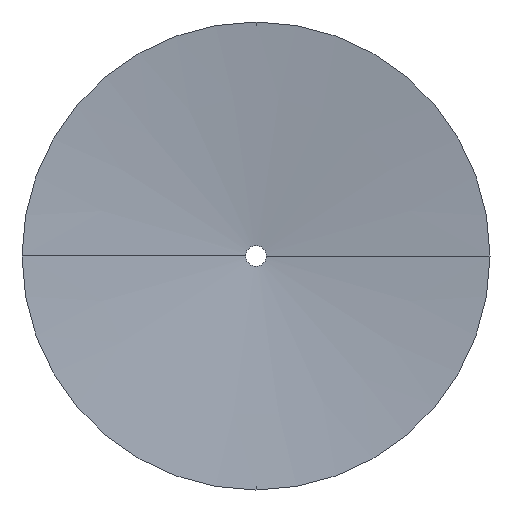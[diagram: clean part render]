
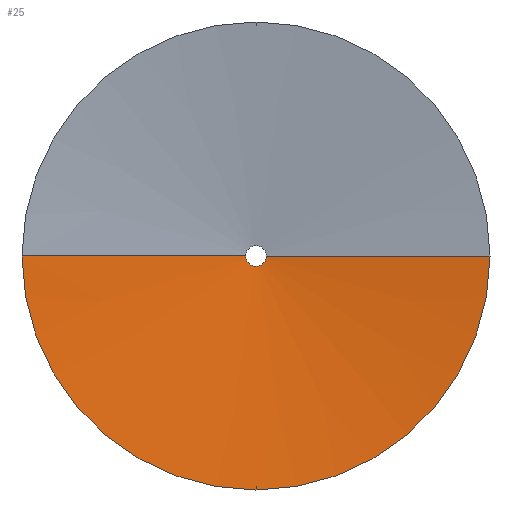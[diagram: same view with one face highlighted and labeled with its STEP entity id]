
A CAD part, left-side view. The second image highlights one B-rep face of the part: STEP entity #25.
In plain terms, the highlighted conical face has half-angle 83.367 degrees and reference radius 1 mm.
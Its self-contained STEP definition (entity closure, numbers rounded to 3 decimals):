
#13 = DIRECTION ( 'NONE',  ( 1., 0., 0. ) ) ;
#25 = ADVANCED_FACE ( 'NONE', ( #283 ), #506, .F. ) ;
#32 = VERTEX_POINT ( 'NONE', #431 ) ;
#48 = DIRECTION ( 'NONE',  ( 0., 0., 1. ) ) ;
#55 = AXIS2_PLACEMENT_3D ( 'NONE', #271, #659, #579 ) ;
#57 = CARTESIAN_POINT ( 'NONE',  ( 0., 0., 0. ) ) ;
#67 = EDGE_CURVE ( 'NONE', #500, #32, #588, .T. ) ;
#70 = LINE ( 'NONE', #662, #669 ) ;
#110 = EDGE_CURVE ( 'NONE', #310, #693, #488, .T. ) ;
#153 = DIRECTION ( 'NONE',  ( 0., 0., 1. ) ) ;
#167 = CIRCLE ( 'NONE', #183, 22.5 ) ;
#170 = DIRECTION ( 'NONE',  ( 1., 0., 0. ) ) ;
#183 = AXIS2_PLACEMENT_3D ( 'NONE', #57, #616, #346 ) ;
#185 = VERTEX_POINT ( 'NONE', #664 ) ;
#194 = CARTESIAN_POINT ( 'NONE',  ( 2.5, 0., 0. ) ) ;
#197 = ORIENTED_EDGE ( 'NONE', *, *, #110, .T. ) ;
#205 = CARTESIAN_POINT ( 'NONE',  ( 2.5, -1., 0. ) ) ;
#218 = VECTOR ( 'NONE', #496, 1000. ) ;
#247 = CARTESIAN_POINT ( 'NONE',  ( 2.5, 1., 0. ) ) ;
#271 = CARTESIAN_POINT ( 'NONE',  ( 0., 0., 0. ) ) ;
#283 = FACE_OUTER_BOUND ( 'NONE', #318, .T. ) ;
#286 = CARTESIAN_POINT ( 'NONE',  ( 2.5, 0., 0. ) ) ;
#298 = EDGE_CURVE ( 'NONE', #185, #32, #416, .T. ) ;
#310 = VERTEX_POINT ( 'NONE', #743 ) ;
#318 = EDGE_LOOP ( 'NONE', ( #197, #536, #554, #541, #642, #694 ) ) ;
#346 = DIRECTION ( 'NONE',  ( 0., 0., 1. ) ) ;
#375 = CARTESIAN_POINT ( 'NONE',  ( 2.5, -1., 0. ) ) ;
#397 = EDGE_CURVE ( 'NONE', #693, #683, #70, .T. ) ;
#416 = CIRCLE ( 'NONE', #55, 22.5 ) ;
#431 = CARTESIAN_POINT ( 'NONE',  ( 0., -22.5, 0. ) ) ;
#454 = DIRECTION ( 'NONE',  ( -1., 0., 0. ) ) ;
#458 = DIRECTION ( 'NONE',  ( 0., -1., 0. ) ) ;
#463 = AXIS2_PLACEMENT_3D ( 'NONE', #194, #170, #153 ) ;
#488 = CIRCLE ( 'NONE', #463, 1. ) ;
#496 = DIRECTION ( 'NONE',  ( -0.116, -0.993, 0. ) ) ;
#500 = VERTEX_POINT ( 'NONE', #205 ) ;
#506 = CONICAL_SURFACE ( 'NONE', #660, 1., 1.455 ) ;
#514 = DIRECTION ( 'NONE',  ( -0.116, 0.993, 0. ) ) ;
#515 = EDGE_CURVE ( 'NONE', #683, #185, #167, .T. ) ;
#529 = CARTESIAN_POINT ( 'NONE',  ( 2.5, 0., 0. ) ) ;
#536 = ORIENTED_EDGE ( 'NONE', *, *, #397, .T. ) ;
#538 = AXIS2_PLACEMENT_3D ( 'NONE', #286, #13, #48 ) ;
#541 = ORIENTED_EDGE ( 'NONE', *, *, #298, .T. ) ;
#554 = ORIENTED_EDGE ( 'NONE', *, *, #515, .T. ) ;
#571 = EDGE_CURVE ( 'NONE', #500, #310, #676, .T. ) ;
#579 = DIRECTION ( 'NONE',  ( 0., 0., 1. ) ) ;
#588 = LINE ( 'NONE', #375, #218 ) ;
#616 = DIRECTION ( 'NONE',  ( -1., 0., 0. ) ) ;
#642 = ORIENTED_EDGE ( 'NONE', *, *, #67, .F. ) ;
#659 = DIRECTION ( 'NONE',  ( -1., 0., 0. ) ) ;
#660 = AXIS2_PLACEMENT_3D ( 'NONE', #529, #454, #458 ) ;
#662 = CARTESIAN_POINT ( 'NONE',  ( 2.5, 1., 0. ) ) ;
#664 = CARTESIAN_POINT ( 'NONE',  ( 0., 0., -22.5 ) ) ;
#669 = VECTOR ( 'NONE', #514, 1000. ) ;
#676 = CIRCLE ( 'NONE', #538, 1. ) ;
#683 = VERTEX_POINT ( 'NONE', #699 ) ;
#693 = VERTEX_POINT ( 'NONE', #247 ) ;
#694 = ORIENTED_EDGE ( 'NONE', *, *, #571, .T. ) ;
#699 = CARTESIAN_POINT ( 'NONE',  ( 0., 22.5, 0. ) ) ;
#743 = CARTESIAN_POINT ( 'NONE',  ( 2.5, 0., -1. ) ) ;
